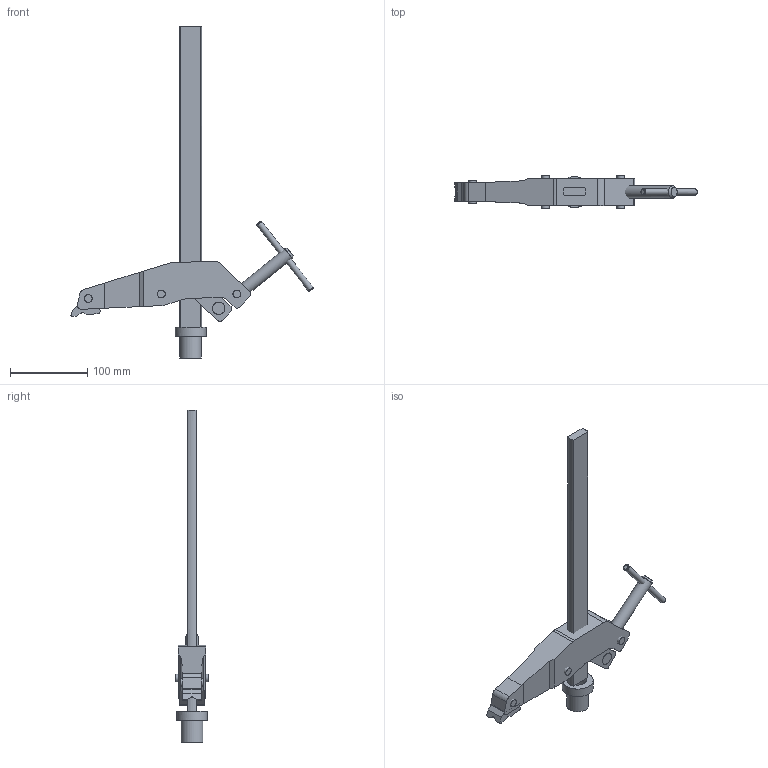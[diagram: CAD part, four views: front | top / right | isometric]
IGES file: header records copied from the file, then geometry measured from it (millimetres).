
Start section: ZWSOFT
Global section: file name: TW28GRS30-12_Unten.igs; native system: ZW3D; preprocessor: 1.0; author: ZW3D; organization: ZWSOFT; date: 140402.152906; units: millimetre
Bounding box: 313.45 x 42 x 429 mm (x, y, z)
Surface area: 97114.4 mm2 (no closed solid volume)
Topology: 0 solids, 0 shells, 92 faces, 476 edges, 451 vertices
Faces by surface type: bspline 92
